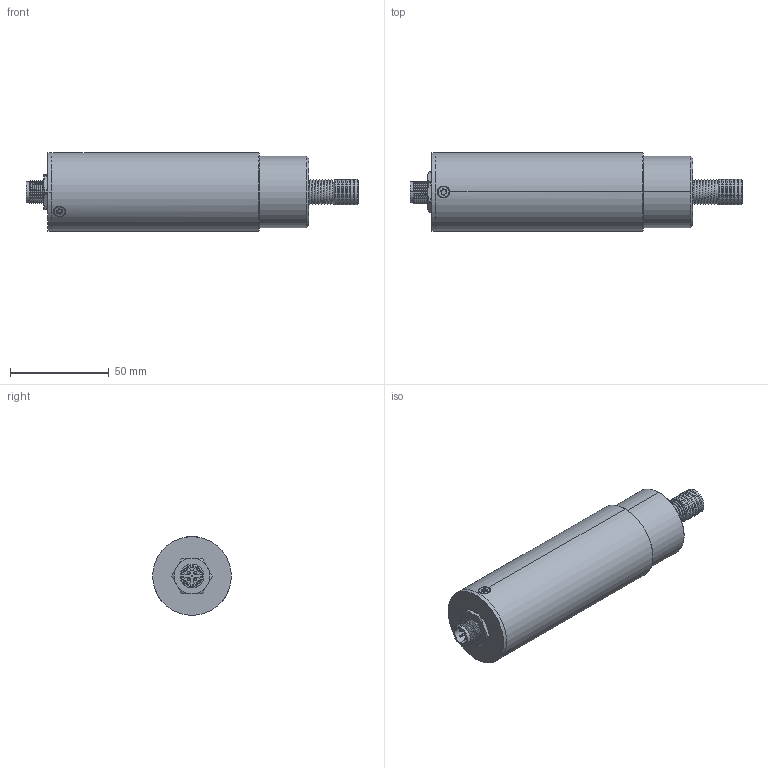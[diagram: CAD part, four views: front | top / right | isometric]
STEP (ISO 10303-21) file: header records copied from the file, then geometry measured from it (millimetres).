
FILE_DESCRIPTION (( 'STEP AP214' ), '1' );
FILE_NAME ('Pluto 6CA.STEP', '2013-05-24T08:30:18', ( '' ), ( '' ), 'SwSTEP 2.0', 'SolidWorks 2013', '' );
FILE_SCHEMA (( 'AUTOMOTIVE_DESIGN' ));
Length unit declared in the file: millimetre
Products named in the file (1): Pluto 6CA
Bounding box: 168 x 39.8 x 39.8 mm (x, y, z)
Volume: 110593.8 mm3; surface area: 54687 mm2
Topology: 17 solids, 17 shells, 578 faces, 1345 edges, 813 vertices
Faces by surface type: cylinder 251, plane 164, cone 70, torus 58, bspline 33, sphere 2
Entity records: 36348 total; most frequent: CARTESIAN_POINT 16906, DIRECTION 2789, ORIENTED_EDGE 2612, EDGE_CURVE 1306, AXIS2_PLACEMENT_3D 1145, VERTEX_POINT 810, EDGE_LOOP 664, CIRCLE 599
